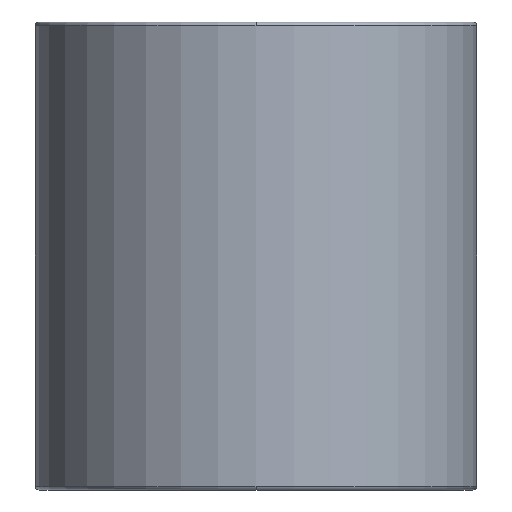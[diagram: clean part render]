
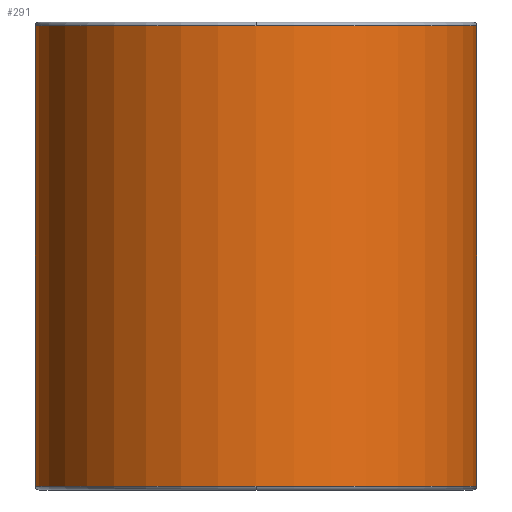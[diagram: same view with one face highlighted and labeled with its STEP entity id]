
A CAD part, front view. The second image highlights one B-rep face of the part: STEP entity #291.
In plain terms, the highlighted cylindrical face has radius 22.625 mm (diameter 45.25 mm), a partial arc.
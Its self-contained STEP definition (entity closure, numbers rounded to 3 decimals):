
#196=CARTESIAN_POINT('',(0.0,-22.625,30.1));
#197=VERTEX_POINT('',#196);
#223=CARTESIAN_POINT('',(-22.625,0.,30.1));
#224=VERTEX_POINT('',#223);
#232=CARTESIAN_POINT('',(0.0,0.,30.1));
#233=DIRECTION('',(0.0,0.0,1.0));
#234=DIRECTION('',(1.0,0.0,0.0));
#235=AXIS2_PLACEMENT_3D('',#232,#233,#234);
#236=CIRCLE('',#235,22.625);
#237=EDGE_CURVE('',#224,#197,#236,.T.);
#242=CARTESIAN_POINT('',(0.0,0.,6.5));
#243=DIRECTION('',(0.0,0.,1.0));
#244=DIRECTION('',(1.0,0.0,0.0));
#245=AXIS2_PLACEMENT_3D('',#242,#243,#244);
#246=CYLINDRICAL_SURFACE('',#245,22.625);
#247=CARTESIAN_POINT('',(22.625,0.,30.1));
#248=VERTEX_POINT('',#247);
#249=CARTESIAN_POINT('',(22.625,0.,-17.1));
#250=VERTEX_POINT('',#249);
#251=CARTESIAN_POINT('',(22.625,0.,30.1));
#252=DIRECTION('',(0.0,0.0,-1.0));
#253=VECTOR('',#252,47.2);
#254=LINE('',#251,#253);
#255=EDGE_CURVE('',#248,#250,#254,.T.);
#256=ORIENTED_EDGE('',*,*,#255,.F.);
#257=CARTESIAN_POINT('',(0.0,0.,30.1));
#258=DIRECTION('',(0.0,0.0,1.0));
#259=DIRECTION('',(1.0,0.0,0.0));
#260=AXIS2_PLACEMENT_3D('',#257,#258,#259);
#261=CIRCLE('',#260,22.625);
#262=EDGE_CURVE('',#197,#248,#261,.T.);
#263=ORIENTED_EDGE('',*,*,#262,.F.);
#264=ORIENTED_EDGE('',*,*,#237,.F.);
#265=CARTESIAN_POINT('',(-22.625,0.,-17.1));
#266=VERTEX_POINT('',#265);
#267=CARTESIAN_POINT('',(-22.625,0.,30.1));
#268=DIRECTION('',(0.0,0.0,-1.0));
#269=VECTOR('',#268,47.2);
#270=LINE('',#267,#269);
#271=EDGE_CURVE('',#224,#266,#270,.T.);
#272=ORIENTED_EDGE('',*,*,#271,.T.);
#273=CARTESIAN_POINT('',(0.0,-22.625,-17.1));
#274=VERTEX_POINT('',#273);
#275=CARTESIAN_POINT('',(0.0,0.,-17.1));
#276=DIRECTION('',(0.0,0.0,1.0));
#277=DIRECTION('',(1.0,0.0,0.0));
#278=AXIS2_PLACEMENT_3D('',#275,#276,#277);
#279=CIRCLE('',#278,22.625);
#280=EDGE_CURVE('',#266,#274,#279,.T.);
#281=ORIENTED_EDGE('',*,*,#280,.T.);
#282=CARTESIAN_POINT('',(0.0,0.,-17.1));
#283=DIRECTION('',(0.0,0.0,1.0));
#284=DIRECTION('',(1.0,0.0,0.0));
#285=AXIS2_PLACEMENT_3D('',#282,#283,#284);
#286=CIRCLE('',#285,22.625);
#287=EDGE_CURVE('',#274,#250,#286,.T.);
#288=ORIENTED_EDGE('',*,*,#287,.T.);
#289=EDGE_LOOP('',(#256,#263,#264,#272,#281,#288));
#290=FACE_OUTER_BOUND('',#289,.T.);
#291=ADVANCED_FACE('',(#290),#246,.T.);
